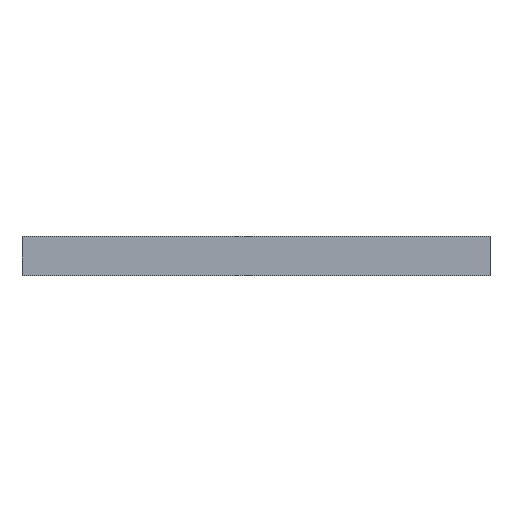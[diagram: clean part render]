
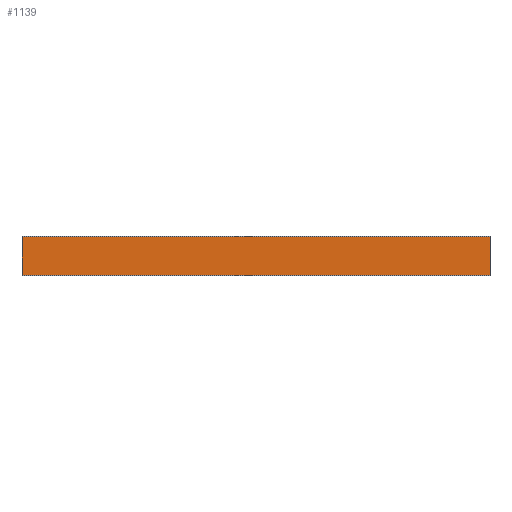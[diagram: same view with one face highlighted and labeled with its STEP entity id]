
A CAD part, top view. The second image highlights one B-rep face of the part: STEP entity #1139.
In plain terms, the highlighted planar face has unit normal (0, 0, 1).
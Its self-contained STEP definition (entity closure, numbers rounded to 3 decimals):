
#81=FACE_OUTER_BOUND('',#139,.T.);
#139=EDGE_LOOP('',(#990,#991,#992,#993));
#285=LINE('',#1779,#441);
#286=LINE('',#1782,#442);
#287=LINE('',#1784,#443);
#288=LINE('',#1785,#444);
#441=VECTOR('',#1461,10.);
#442=VECTOR('',#1464,10.);
#443=VECTOR('',#1465,10.);
#444=VECTOR('',#1466,10.);
#551=VERTEX_POINT('',#1773);
#553=VERTEX_POINT('',#1777);
#554=VERTEX_POINT('',#1781);
#555=VERTEX_POINT('',#1783);
#701=EDGE_CURVE('',#551,#553,#285,.T.);
#702=EDGE_CURVE('',#551,#554,#286,.T.);
#703=EDGE_CURVE('',#555,#553,#287,.T.);
#704=EDGE_CURVE('',#554,#555,#288,.T.);
#990=ORIENTED_EDGE('',*,*,#702,.F.);
#991=ORIENTED_EDGE('',*,*,#701,.T.);
#992=ORIENTED_EDGE('',*,*,#703,.F.);
#993=ORIENTED_EDGE('',*,*,#704,.F.);
#1081=PLANE('',#1219);
#1139=ADVANCED_FACE('',(#81),#1081,.T.);
#1219=AXIS2_PLACEMENT_3D('',#1780,#1462,#1463);
#1461=DIRECTION('',(1.,0.,0.));
#1462=DIRECTION('center_axis',(0.,0.,1.));
#1463=DIRECTION('ref_axis',(0.,-1.,0.));
#1464=DIRECTION('',(0.,1.,0.));
#1465=DIRECTION('',(0.,-1.,0.));
#1466=DIRECTION('',(1.,0.,0.));
#1773=CARTESIAN_POINT('',(0.,-41.5,42.5));
#1777=CARTESIAN_POINT('',(1000.,-41.5,42.5));
#1779=CARTESIAN_POINT('',(0.,-41.5,42.5));
#1780=CARTESIAN_POINT('Origin',(0.,41.5,42.5));
#1781=CARTESIAN_POINT('',(0.,41.5,42.5));
#1782=CARTESIAN_POINT('',(0.,-41.5,42.5));
#1783=CARTESIAN_POINT('',(1000.,41.5,42.5));
#1784=CARTESIAN_POINT('',(1000.,-41.5,42.5));
#1785=CARTESIAN_POINT('',(0.,41.5,42.5));
